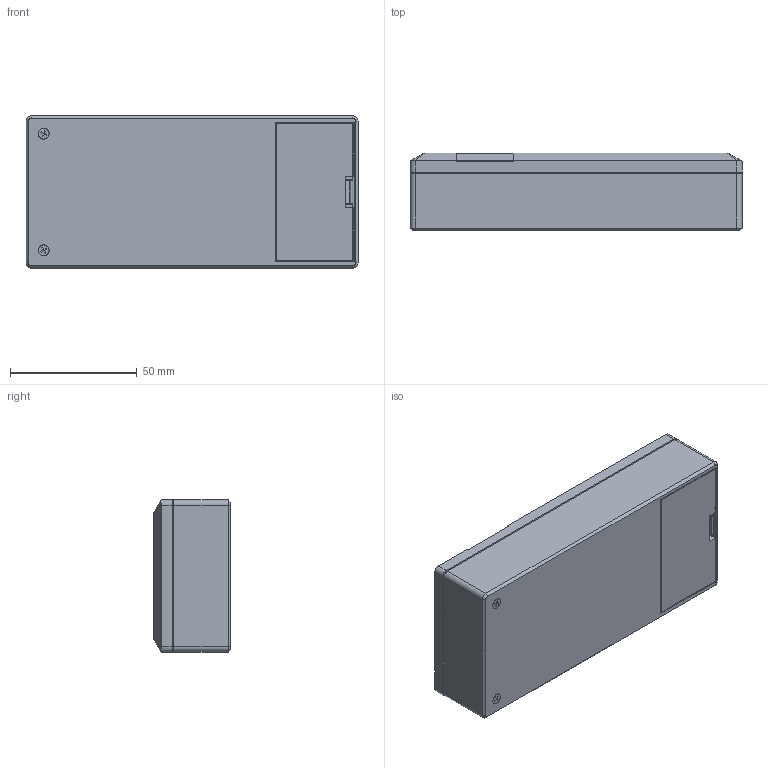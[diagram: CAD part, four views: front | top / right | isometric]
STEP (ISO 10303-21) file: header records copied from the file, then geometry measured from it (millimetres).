
FILE_DESCRIPTION (( 'STEP AP214' ), '1' );
FILE_NAME ('Conjunt PP30.STEP', '2018-08-07T16:02:18', ( 'aaa' ), ( '' ), 'SwSTEP 2.0', 'SolidWorks 2013', '' );
FILE_SCHEMA (( 'AUTOMOTIVE_DESIGN' ));
Length unit declared in the file: millimetre
Products named in the file (9): Cargol 2,2x13 DIN 7982 PP30; Cargol 2,2x6,5 DIN7982 PP30; Cargol 2,2x16  DIN7982 PP30; Conector electric PP30; Tapeta visor PP30; Tapeta PP30; Tapa PP30; Cos PP30; Conjunt PP30
Assembly tree (13 placements, depth 2):
  Conjunt PP30
    Cos PP30
    Tapa PP30
    Tapeta PP30
    Tapeta visor PP30
    Conector electric PP30  x4
    Cargol 2,2x16  DIN7982 PP30  x2
    Cargol 2,2x6,5 DIN7982 PP30  x2
    Cargol 2,2x13 DIN 7982 PP30
Bounding box: 131 x 30.6 x 60 mm (x, y, z)
Volume: 66939.5 mm3; surface area: 68094.7 mm2
Topology: 13 solids, 13 shells, 1014 faces, 2488 edges, 1513 vertices
Faces by surface type: plane 513, cone 380, cylinder 116, bspline 5
Entity records: 22983 total; most frequent: CARTESIAN_POINT 4336, DIRECTION 3772, ORIENTED_EDGE 3764, EDGE_CURVE 1882, VECTOR 1454, LINE 1454, VERTEX_POINT 1171, AXIS2_PLACEMENT_3D 1159
